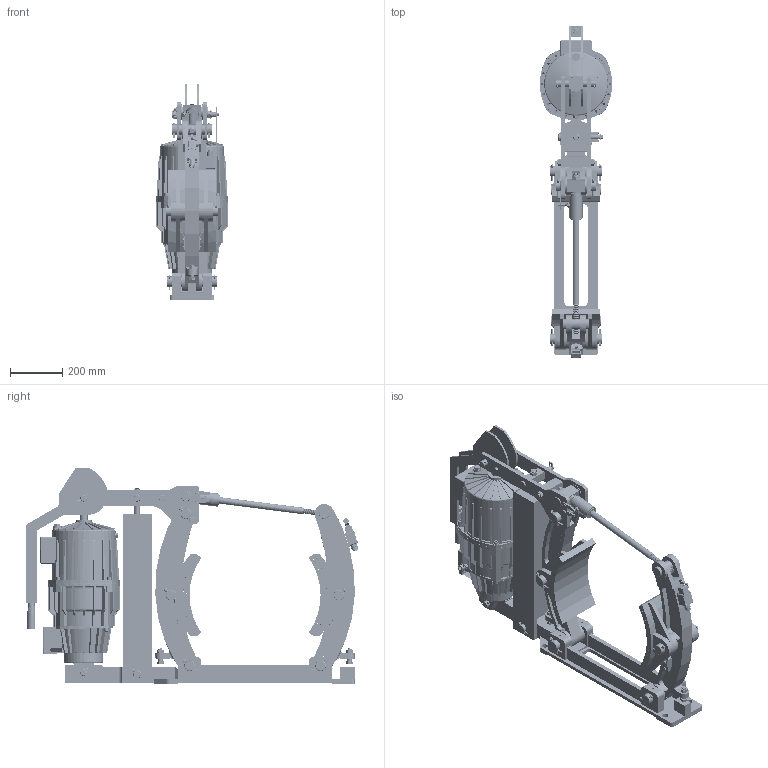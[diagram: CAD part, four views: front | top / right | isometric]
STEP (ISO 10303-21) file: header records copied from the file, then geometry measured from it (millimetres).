
FILE_DESCRIPTION((''),'2;1');
FILE_NAME('4459_504_504_E00001','2018-02-01T',('VORO'),(''),'CREO PARAMETRIC BY PTC INC, 2017170','CREO PARAMETRIC BY PTC INC, 2017170','');
FILE_SCHEMA(('CONFIG_CONTROL_DESIGN'));
Products named in the file (1): 4459_504_504_E00001
Bounding box: 276 x 1266.4 x 826.65 mm (x, y, z)
Surface area: 4856372.8 mm2 (no closed solid volume)
Topology: 0 solids, 3585 shells, 4090 faces, 25004 edges, 23961 vertices
Faces by surface type: plane 2005, cylinder 1305, cone 499, torus 262, bspline 16, sphere 3
Entity records: 433286 total; most frequent: CARTESIAN_POINT 135526, PRESENTATION_STYLE_ASSIGNMENT 32648, DIRECTION 28759, STYLED_ITEM 28558, ORIENTED_EDGE 26008, CURVE_STYLE 24973, EDGE_CURVE 24973, VERTEX_POINT 23949
